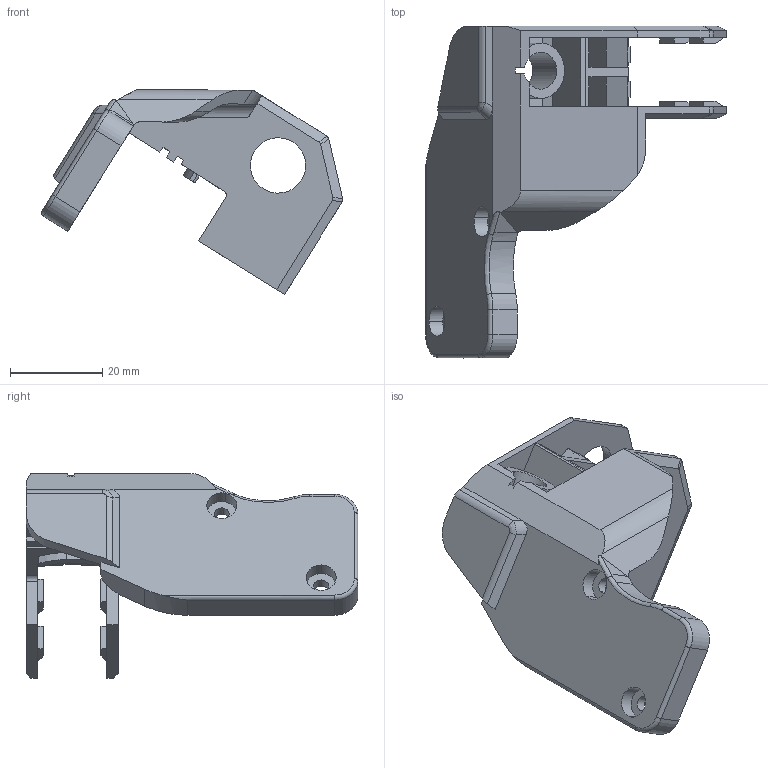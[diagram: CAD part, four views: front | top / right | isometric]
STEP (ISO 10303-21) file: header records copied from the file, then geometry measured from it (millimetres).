
FILE_DESCRIPTION(('CATIA V5 STEP Exchange'),'2;1');
FILE_NAME('G:\够快云库\系统集成开发部\1.部门成员\孙国\工装\切割工装\STP\0331\573.4601.01_V1 固定支架.stp','2021-03-31T07:59:21+00:00',('none'),('none'),'CATIA Version 5 Release 20 GA (IN-10)','CATIA V5 STEP AP214','none');
FILE_SCHEMA(('AUTOMOTIVE_DESIGN { 1 0 10303 214 1 1 1 1 }'));
Length unit declared in the file: millimetre
Products named in the file (1): 573.4601.01_V1
Bounding box: 65.3 x 72 x 44.44 mm (x, y, z)
Volume: 17567 mm3; surface area: 14345.6 mm2
Topology: 1 solids, 1 shells, 232 faces, 708 edges, 481 vertices
Faces by surface type: plane 151, cylinder 68, bspline 9, torus 3, extrusion 1
Entity records: 11017 total; most frequent: CARTESIAN_POINT 3481, ORIENTED_EDGE 1416, DIRECTION 1001, EDGE_CURVE 708, VECTOR 490, LINE 489, VERTEX_POINT 481, AXIS2_PLACEMENT_3D 302
